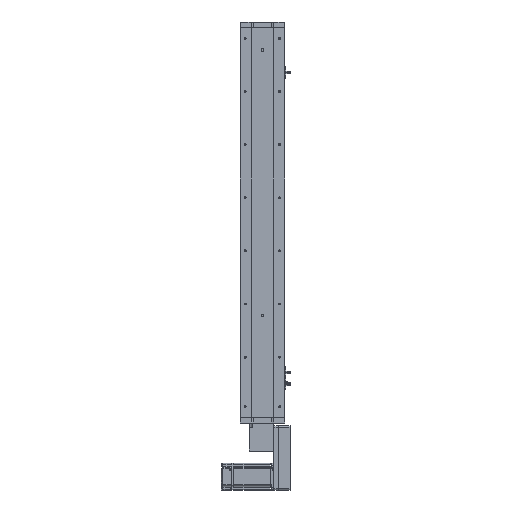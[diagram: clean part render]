
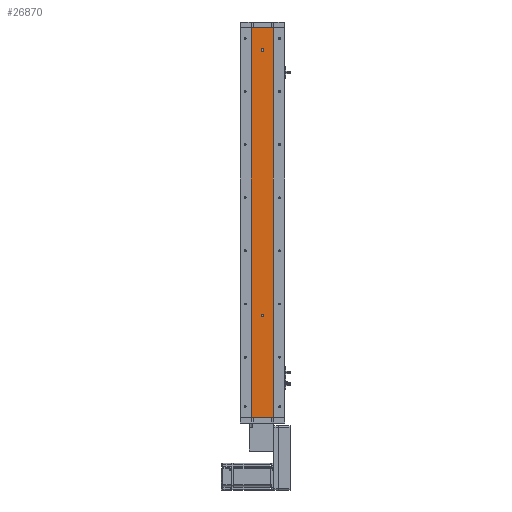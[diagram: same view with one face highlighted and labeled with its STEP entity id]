
A CAD part, left-side view. The second image highlights one B-rep face of the part: STEP entity #26870.
In plain terms, the highlighted planar face has unit normal (-1, 0, 0).
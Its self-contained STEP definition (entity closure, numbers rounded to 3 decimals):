
#5095 = CARTESIAN_POINT ( 'NONE',  ( -18.926, 24.785, 880. ) ) ;
#5337 = DIRECTION ( 'NONE',  ( -1., 0., 0. ) ) ;
#5804 = FACE_OUTER_BOUND ( 'NONE', #25615, .T. ) ;
#6146 = ORIENTED_EDGE ( 'NONE', *, *, #22775, .F. ) ;
#6917 = EDGE_CURVE ( 'NONE', #35805, #42253, #9814, .T. ) ;
#6996 = CARTESIAN_POINT ( 'NONE',  ( -18.926, 24.785, 880. ) ) ;
#8312 = EDGE_CURVE ( 'NONE', #35805, #11758, #60673, .T. ) ;
#9078 = PLANE ( 'NONE',  #57373 ) ;
#9324 = EDGE_LOOP ( 'NONE', ( #36754, #6146 ) ) ;
#9814 = LINE ( 'NONE', #6996, #35457 ) ;
#10049 = CARTESIAN_POINT ( 'NONE',  ( -18.926, 24.785, 880. ) ) ;
#11325 = EDGE_CURVE ( 'NONE', #11758, #31946, #45253, .T. ) ;
#11758 = VERTEX_POINT ( 'NONE', #62783 ) ;
#15832 = DIRECTION ( 'NONE',  ( -1., 0., 0. ) ) ;
#16277 = DIRECTION ( 'NONE',  ( -1., 0., 0. ) ) ;
#18793 = CARTESIAN_POINT ( 'NONE',  ( -18.926, 0., 833. ) ) ;
#20606 = CARTESIAN_POINT ( 'NONE',  ( -18.926, -24.785, 880. ) ) ;
#20726 = DIRECTION ( 'NONE',  ( 0., 0., -1. ) ) ;
#21995 = VERTEX_POINT ( 'NONE', #24945 ) ;
#22775 = EDGE_CURVE ( 'NONE', #44057, #21995, #61338, .T. ) ;
#23498 = DIRECTION ( 'NONE',  ( -1., 0., 0. ) ) ;
#24510 = DIRECTION ( 'NONE',  ( 0., 0., -1. ) ) ;
#24945 = CARTESIAN_POINT ( 'NONE',  ( -18.926, 0., 233. ) ) ;
#25615 = EDGE_LOOP ( 'NONE', ( #58526, #48869, #27223, #35759 ) ) ;
#26720 = AXIS2_PLACEMENT_3D ( 'NONE', #46487, #15832, #51681 ) ;
#26870 = ADVANCED_FACE ( 'NONE', ( #31392, #45014, #5804 ), #9078, .F. ) ;
#27223 = ORIENTED_EDGE ( 'NONE', *, *, #6917, .F. ) ;
#29869 = DIRECTION ( 'NONE',  ( 1., 0., 0. ) ) ;
#30711 = ORIENTED_EDGE ( 'NONE', *, *, #59285, .F. ) ;
#31392 = FACE_BOUND ( 'NONE', #9324, .T. ) ;
#31629 = VECTOR ( 'NONE', #49190, 1000. ) ;
#31712 = AXIS2_PLACEMENT_3D ( 'NONE', #36012, #5337, #41118 ) ;
#31946 = VERTEX_POINT ( 'NONE', #54085 ) ;
#33410 = CIRCLE ( 'NONE', #47493, 3. ) ;
#33447 = VECTOR ( 'NONE', #20726, 1000. ) ;
#35457 = VECTOR ( 'NONE', #53123, 1000. ) ;
#35759 = ORIENTED_EDGE ( 'NONE', *, *, #8312, .T. ) ;
#35805 = VERTEX_POINT ( 'NONE', #10049 ) ;
#36012 = CARTESIAN_POINT ( 'NONE',  ( -18.926, 0., 230. ) ) ;
#36754 = ORIENTED_EDGE ( 'NONE', *, *, #40170, .F. ) ;
#37718 = EDGE_LOOP ( 'NONE', ( #55586, #30711 ) ) ;
#39699 = CARTESIAN_POINT ( 'NONE',  ( -18.926, -24.785, 880. ) ) ;
#40170 = EDGE_CURVE ( 'NONE', #21995, #44057, #48357, .T. ) ;
#40777 = CIRCLE ( 'NONE', #26720, 3. ) ;
#41118 = DIRECTION ( 'NONE',  ( 0., 0., 1. ) ) ;
#42253 = VERTEX_POINT ( 'NONE', #20606 ) ;
#42790 = VECTOR ( 'NONE', #24510, 1000. ) ;
#44008 = CARTESIAN_POINT ( 'NONE',  ( -18.926, 24.785, 0. ) ) ;
#44057 = VERTEX_POINT ( 'NONE', #59994 ) ;
#45014 = FACE_BOUND ( 'NONE', #37718, .T. ) ;
#45253 = LINE ( 'NONE', #44008, #31629 ) ;
#46487 = CARTESIAN_POINT ( 'NONE',  ( -18.926, 0., 830. ) ) ;
#46922 = CARTESIAN_POINT ( 'NONE',  ( -18.926, 0., 830. ) ) ;
#47493 = AXIS2_PLACEMENT_3D ( 'NONE', #46922, #16277, #52090 ) ;
#48357 = CIRCLE ( 'NONE', #31712, 3. ) ;
#48869 = ORIENTED_EDGE ( 'NONE', *, *, #60204, .F. ) ;
#49015 = AXIS2_PLACEMENT_3D ( 'NONE', #54144, #23498, #59233 ) ;
#49190 = DIRECTION ( 'NONE',  ( 0., -1., 0. ) ) ;
#51681 = DIRECTION ( 'NONE',  ( 0., 0., 1. ) ) ;
#52090 = DIRECTION ( 'NONE',  ( 0., 0., 1. ) ) ;
#52380 = EDGE_CURVE ( 'NONE', #63128, #65307, #40777, .T. ) ;
#53123 = DIRECTION ( 'NONE',  ( 0., -1., 0. ) ) ;
#54085 = CARTESIAN_POINT ( 'NONE',  ( -18.926, -24.785, 0. ) ) ;
#54144 = CARTESIAN_POINT ( 'NONE',  ( -18.926, 0., 230. ) ) ;
#55586 = ORIENTED_EDGE ( 'NONE', *, *, #52380, .F. ) ;
#56470 = LINE ( 'NONE', #39699, #42790 ) ;
#57373 = AXIS2_PLACEMENT_3D ( 'NONE', #60513, #29869, #65630 ) ;
#58526 = ORIENTED_EDGE ( 'NONE', *, *, #11325, .T. ) ;
#59233 = DIRECTION ( 'NONE',  ( 0., 0., 1. ) ) ;
#59285 = EDGE_CURVE ( 'NONE', #65307, #63128, #33410, .T. ) ;
#59994 = CARTESIAN_POINT ( 'NONE',  ( -18.926, 0., 227. ) ) ;
#60204 = EDGE_CURVE ( 'NONE', #42253, #31946, #56470, .T. ) ;
#60513 = CARTESIAN_POINT ( 'NONE',  ( -18.926, 24.785, 880. ) ) ;
#60583 = CARTESIAN_POINT ( 'NONE',  ( -18.926, 0., 827. ) ) ;
#60673 = LINE ( 'NONE', #5095, #33447 ) ;
#61338 = CIRCLE ( 'NONE', #49015, 3. ) ;
#62783 = CARTESIAN_POINT ( 'NONE',  ( -18.926, 24.785, 0. ) ) ;
#63128 = VERTEX_POINT ( 'NONE', #18793 ) ;
#65307 = VERTEX_POINT ( 'NONE', #60583 ) ;
#65630 = DIRECTION ( 'NONE',  ( 0., 0., -1. ) ) ;
